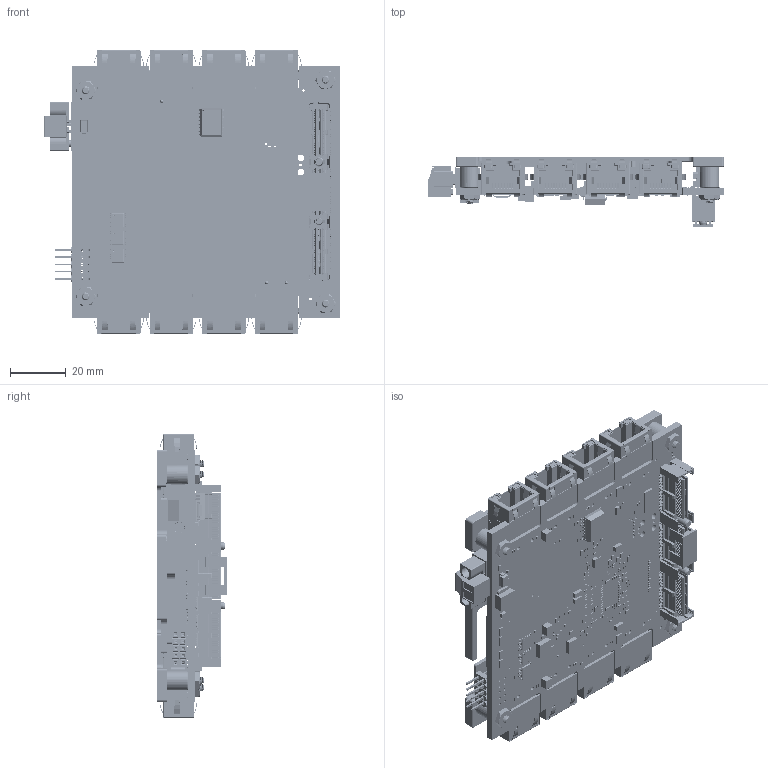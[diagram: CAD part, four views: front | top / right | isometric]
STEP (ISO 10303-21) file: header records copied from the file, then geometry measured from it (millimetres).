
FILE_DESCRIPTION (( 'STEP AP214' ), '1' );
FILE_NAME ('Assembly(0.01) Conduction Cooled XDG018.STEP', '2016-03-31T18:40:42', ( '' ), ( '' ), 'SwSTEP 2.0', 'SolidWorks 2015', '' );
FILE_SCHEMA (( 'AUTOMOTIVE_DESIGN' ));
Length unit declared in the file: inch
Products named in the file (8): 92146A530 Lockwasher, #4, Split, SS_92146A530; 91841A005 Nut, 4-40, SS_91841A005; 91772A111 Screw, 4-40X.563 PPHMS, SS_91772A111; XDG006_3D_MODEL; CTIA-00575 REV 0.01  Heat Plate - Top, Conduction Cooled XDG; Assembly(0.01) Conduction Cooled XDG018; 21464 Loctite 222 Threadlocker; GR45A-0H-50GY Thermal Pad, 1.00X1.00_50GR-ae
Assembly tree (15 placements, depth 2):
  Assembly(0.01) Conduction Cooled XDG018
    CTIA-00575 REV 0.01  Heat Plate - Top, Conduction Cooled XDG
    XDG006_3D_MODEL
    91772A111 Screw, 4-40X.563 PPHMS, SS_91772A111  x4
    91841A005 Nut, 4-40, SS_91841A005  x4
    92146A530 Lockwasher, #4, Split, SS_92146A530  x4
    GR45A-0H-50GY Thermal Pad, 1.00X1.00_50GR-ae
  21464 Loctite 222 Threadlocker
Bounding box: 105.67 x 25.14 x 101.25 mm (x, y, z)
Volume: 27865.7 mm3; surface area: 86167.8 mm2
Topology: 14 solids, 1720 shells, 16346 faces, 79054 edges, 61862 vertices
Faces by surface type: plane 11705, cylinder 4064, bspline 287, cone 266, torus 16, sphere 8
Entity records: 964403 total; most frequent: CARTESIAN_POINT 168617, DIRECTION 123859, ORIENTED_EDGE 105523, EDGE_CURVE 77200, VERTEX_POINT 60704, VECTOR 57205, LINE 57205, AXIS2_PLACEMENT_3D 33327
